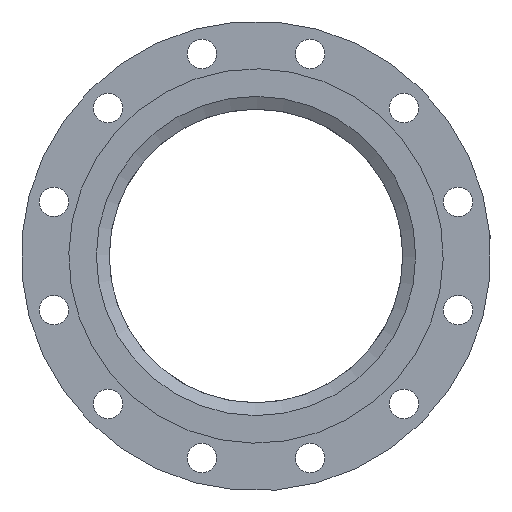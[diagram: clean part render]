
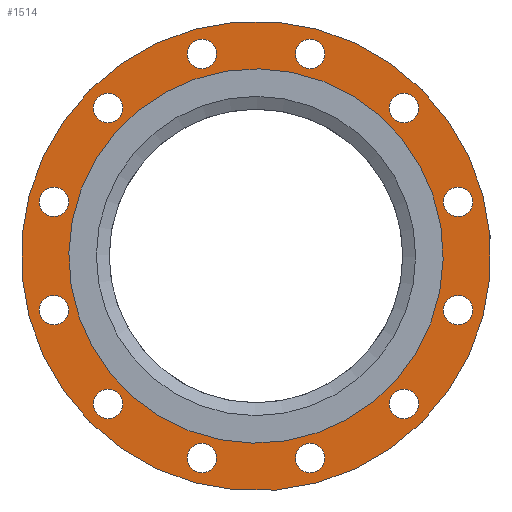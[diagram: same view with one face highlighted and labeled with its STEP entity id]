
A CAD part, front view. The second image highlights one B-rep face of the part: STEP entity #1514.
In plain terms, the highlighted planar face has unit normal (0, -1, 0).
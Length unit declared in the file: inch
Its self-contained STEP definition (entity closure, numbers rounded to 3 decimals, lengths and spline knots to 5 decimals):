
#54=PLANE('',#1662);
#136=FACE_BOUND('',#433,.T.);
#137=FACE_BOUND('',#434,.T.);
#138=FACE_BOUND('',#435,.T.);
#139=FACE_BOUND('',#436,.T.);
#140=FACE_BOUND('',#437,.T.);
#141=FACE_BOUND('',#438,.T.);
#142=FACE_BOUND('',#439,.T.);
#143=FACE_BOUND('',#440,.T.);
#144=FACE_BOUND('',#441,.T.);
#145=FACE_BOUND('',#442,.T.);
#146=FACE_BOUND('',#443,.T.);
#147=FACE_BOUND('',#444,.T.);
#148=FACE_BOUND('',#445,.T.);
#275=FACE_OUTER_BOUND('',#432,.T.);
#432=EDGE_LOOP('',(#1127));
#433=EDGE_LOOP('',(#1128));
#434=EDGE_LOOP('',(#1129));
#435=EDGE_LOOP('',(#1130));
#436=EDGE_LOOP('',(#1131));
#437=EDGE_LOOP('',(#1132));
#438=EDGE_LOOP('',(#1133));
#439=EDGE_LOOP('',(#1134));
#440=EDGE_LOOP('',(#1135));
#441=EDGE_LOOP('',(#1136));
#442=EDGE_LOOP('',(#1137));
#443=EDGE_LOOP('',(#1138));
#444=EDGE_LOOP('',(#1139));
#445=EDGE_LOOP('',(#1140));
#681=CIRCLE('',#1663,8.);
#682=CIRCLE('',#1664,0.5);
#683=CIRCLE('',#1665,0.5);
#684=CIRCLE('',#1666,0.5);
#685=CIRCLE('',#1667,0.5);
#686=CIRCLE('',#1668,0.5);
#687=CIRCLE('',#1669,0.5);
#688=CIRCLE('',#1670,0.5);
#689=CIRCLE('',#1671,0.5);
#690=CIRCLE('',#1672,0.5);
#691=CIRCLE('',#1673,0.5);
#692=CIRCLE('',#1674,0.5);
#693=CIRCLE('',#1675,0.5);
#694=CIRCLE('',#1676,6.375);
#820=VERTEX_POINT('',#2459);
#821=VERTEX_POINT('',#2461);
#822=VERTEX_POINT('',#2463);
#823=VERTEX_POINT('',#2465);
#824=VERTEX_POINT('',#2467);
#825=VERTEX_POINT('',#2469);
#826=VERTEX_POINT('',#2471);
#827=VERTEX_POINT('',#2473);
#828=VERTEX_POINT('',#2475);
#829=VERTEX_POINT('',#2477);
#830=VERTEX_POINT('',#2479);
#831=VERTEX_POINT('',#2481);
#832=VERTEX_POINT('',#2483);
#833=VERTEX_POINT('',#2485);
#959=EDGE_CURVE('',#820,#820,#681,.T.);
#960=EDGE_CURVE('',#821,#821,#682,.T.);
#961=EDGE_CURVE('',#822,#822,#683,.T.);
#962=EDGE_CURVE('',#823,#823,#684,.T.);
#963=EDGE_CURVE('',#824,#824,#685,.T.);
#964=EDGE_CURVE('',#825,#825,#686,.T.);
#965=EDGE_CURVE('',#826,#826,#687,.T.);
#966=EDGE_CURVE('',#827,#827,#688,.T.);
#967=EDGE_CURVE('',#828,#828,#689,.T.);
#968=EDGE_CURVE('',#829,#829,#690,.T.);
#969=EDGE_CURVE('',#830,#830,#691,.T.);
#970=EDGE_CURVE('',#831,#831,#692,.T.);
#971=EDGE_CURVE('',#832,#832,#693,.T.);
#972=EDGE_CURVE('',#833,#833,#694,.T.);
#1127=ORIENTED_EDGE('',*,*,#959,.T.);
#1128=ORIENTED_EDGE('',*,*,#960,.T.);
#1129=ORIENTED_EDGE('',*,*,#961,.T.);
#1130=ORIENTED_EDGE('',*,*,#962,.T.);
#1131=ORIENTED_EDGE('',*,*,#963,.T.);
#1132=ORIENTED_EDGE('',*,*,#964,.T.);
#1133=ORIENTED_EDGE('',*,*,#965,.T.);
#1134=ORIENTED_EDGE('',*,*,#966,.T.);
#1135=ORIENTED_EDGE('',*,*,#967,.T.);
#1136=ORIENTED_EDGE('',*,*,#968,.T.);
#1137=ORIENTED_EDGE('',*,*,#969,.T.);
#1138=ORIENTED_EDGE('',*,*,#970,.T.);
#1139=ORIENTED_EDGE('',*,*,#971,.T.);
#1140=ORIENTED_EDGE('',*,*,#972,.F.);
#1514=ADVANCED_FACE('',(#275,#136,#137,#138,#139,#140,#141,#142,#143,#144,
#145,#146,#147,#148),#54,.T.);
#1662=AXIS2_PLACEMENT_3D('',#2458,#1967,#1968);
#1663=AXIS2_PLACEMENT_3D('',#2460,#1969,#1970);
#1664=AXIS2_PLACEMENT_3D('',#2462,#1971,#1972);
#1665=AXIS2_PLACEMENT_3D('',#2464,#1973,#1974);
#1666=AXIS2_PLACEMENT_3D('',#2466,#1975,#1976);
#1667=AXIS2_PLACEMENT_3D('',#2468,#1977,#1978);
#1668=AXIS2_PLACEMENT_3D('',#2470,#1979,#1980);
#1669=AXIS2_PLACEMENT_3D('',#2472,#1981,#1982);
#1670=AXIS2_PLACEMENT_3D('',#2474,#1983,#1984);
#1671=AXIS2_PLACEMENT_3D('',#2476,#1985,#1986);
#1672=AXIS2_PLACEMENT_3D('',#2478,#1987,#1988);
#1673=AXIS2_PLACEMENT_3D('',#2480,#1989,#1990);
#1674=AXIS2_PLACEMENT_3D('',#2482,#1991,#1992);
#1675=AXIS2_PLACEMENT_3D('',#2484,#1993,#1994);
#1676=AXIS2_PLACEMENT_3D('',#2486,#1995,#1996);
#1967=DIRECTION('center_axis',(0.,-1.,0.));
#1968=DIRECTION('ref_axis',(-0.966,0.,0.259));
#1969=DIRECTION('center_axis',(0.,-1.,0.));
#1970=DIRECTION('ref_axis',(-0.966,0.,0.259));
#1971=DIRECTION('center_axis',(0.,1.,0.));
#1972=DIRECTION('ref_axis',(-0.966,0.,-0.259));
#1973=DIRECTION('center_axis',(0.,1.,0.));
#1974=DIRECTION('ref_axis',(-0.707,0.,-0.707));
#1975=DIRECTION('center_axis',(0.,1.,0.));
#1976=DIRECTION('ref_axis',(-0.259,0.,-0.966));
#1977=DIRECTION('center_axis',(0.,1.,0.));
#1978=DIRECTION('ref_axis',(0.259,0.,-0.966));
#1979=DIRECTION('center_axis',(0.,1.,0.));
#1980=DIRECTION('ref_axis',(0.707,0.,-0.707));
#1981=DIRECTION('center_axis',(0.,1.,0.));
#1982=DIRECTION('ref_axis',(0.966,0.,-0.259));
#1983=DIRECTION('center_axis',(0.,1.,0.));
#1984=DIRECTION('ref_axis',(0.966,0.,0.259));
#1985=DIRECTION('center_axis',(0.,1.,0.));
#1986=DIRECTION('ref_axis',(0.707,0.,0.707));
#1987=DIRECTION('center_axis',(0.,1.,0.));
#1988=DIRECTION('ref_axis',(0.259,0.,0.966));
#1989=DIRECTION('center_axis',(0.,1.,0.));
#1990=DIRECTION('ref_axis',(-0.259,0.,0.966));
#1991=DIRECTION('center_axis',(0.,1.,0.));
#1992=DIRECTION('ref_axis',(-0.707,0.,0.707));
#1993=DIRECTION('center_axis',(0.,1.,0.));
#1994=DIRECTION('ref_axis',(-0.966,0.,0.259));
#1995=DIRECTION('center_axis',(0.,-1.,0.));
#1996=DIRECTION('ref_axis',(-0.857,0.,0.515));
#2458=CARTESIAN_POINT('Origin',(0.,0.5,
0.));
#2459=CARTESIAN_POINT('',(7.72741,0.5,-2.07055));
#2460=CARTESIAN_POINT('Origin',(0.,0.5,
0.));
#2461=CARTESIAN_POINT('',(1.36112,0.5,-7.01163));
#2462=CARTESIAN_POINT('Origin',(1.84409,0.5,-6.88222));
#2463=CARTESIAN_POINT('',(4.68458,0.5,-5.39169));
#2464=CARTESIAN_POINT('Origin',(5.03814,0.5,-5.03814));
#2465=CARTESIAN_POINT('',(6.75281,0.5,-2.32705));
#2466=CARTESIAN_POINT('Origin',(6.88222,0.5,-1.84409));
#2467=CARTESIAN_POINT('',(7.01163,0.5,1.36112));
#2468=CARTESIAN_POINT('Origin',(6.88222,0.5,1.84409));
#2469=CARTESIAN_POINT('',(5.39169,0.5,4.68458));
#2470=CARTESIAN_POINT('Origin',(5.03814,0.5,5.03814));
#2471=CARTESIAN_POINT('',(2.32705,0.5,6.75281));
#2472=CARTESIAN_POINT('Origin',(1.84409,0.5,6.88222));
#2473=CARTESIAN_POINT('',(-1.36112,0.5,7.01163));
#2474=CARTESIAN_POINT('Origin',(-1.84409,0.5,6.88222));
#2475=CARTESIAN_POINT('',(-4.68458,0.5,5.39169));
#2476=CARTESIAN_POINT('Origin',(-5.03814,0.5,5.03814));
#2477=CARTESIAN_POINT('',(-6.75281,0.5,2.32705));
#2478=CARTESIAN_POINT('Origin',(-6.88222,0.5,1.84409));
#2479=CARTESIAN_POINT('',(-7.01163,0.5,-1.36112));
#2480=CARTESIAN_POINT('Origin',(-6.88222,0.5,-1.84409));
#2481=CARTESIAN_POINT('',(-5.39169,0.5,-4.68458));
#2482=CARTESIAN_POINT('Origin',(-5.03814,0.5,-5.03814));
#2483=CARTESIAN_POINT('',(-2.32705,0.5,-6.75281));
#2484=CARTESIAN_POINT('Origin',(-1.84409,0.5,-6.88222));
#2485=CARTESIAN_POINT('',(5.46614,0.5,-3.28053));
#2486=CARTESIAN_POINT('Origin',(0.,0.5,0.));
